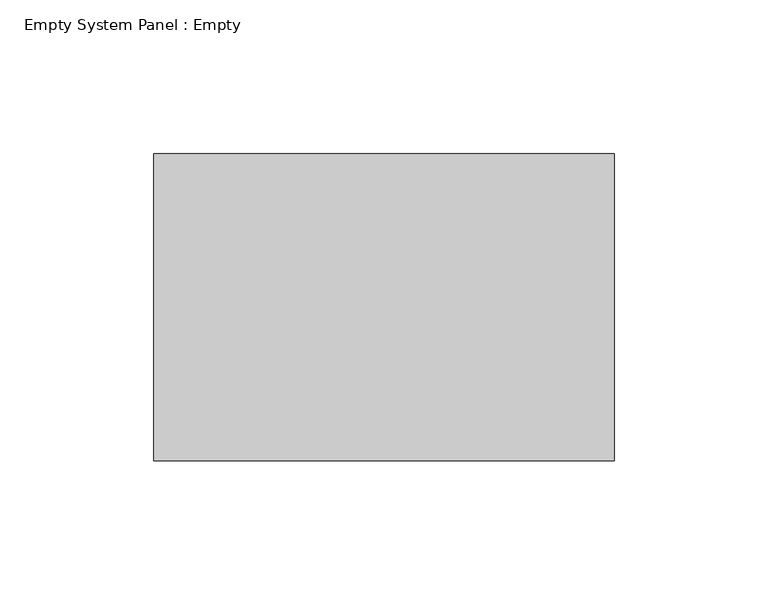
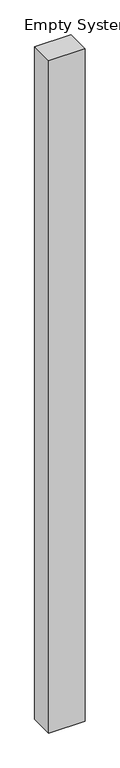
"""IFC4 building model written with IfcOpenShell, lengths in millimetres: plate geometry, Empty System Panel : Empty."""

from ifc_helpers import new_model, si_unit, origin, origin_with_axes, place, context, project, spatial, polyline, outline, extrude, source, transform, mapped, element, save


def empty_system_panel_empty_64907904(model_context):
    return source(origin(), model_context, "Body", "SweptSolid", [
        extrude(outline(polyline([(75.0, -50.0), (-75.0, -50.0), (-75.0, 50.0), (75.0, 50.0), (75.0, -50.0)])), origin_with_axes(), (0.0, 0.0, 1.0), 2925.0),
    ])


if __name__ == "__main__":
    model = new_model("IFC4")
    model_context = context("Model", 3, world=origin())
    ifc_project = project(units=[si_unit("LENGTHUNIT", "METRE", prefix="MILLI")], contexts=[model_context])
    site = spatial("IfcSite", under=ifc_project)
    building = spatial("IfcBuilding", under=site)
    placement = place(None, origin())
    empty_system_panel_empty_shape = empty_system_panel_empty_64907904(model_context)
    element("IfcPlate", 1, ObjectType="Empty System Panel : Empty", at=placement, inside=building, context=model_context, shape_type="MappedRepresentation", body=[
        mapped(empty_system_panel_empty_shape, transform((0.0, 0.0, 0.0), x_axis=(1.0, 0.0, 0.0), y_axis=(0.0, 1.0, 0.0), z_axis=(0.0, 0.0, 1.0))),
    ])
    save(model, "model.ifc")
